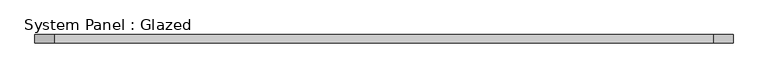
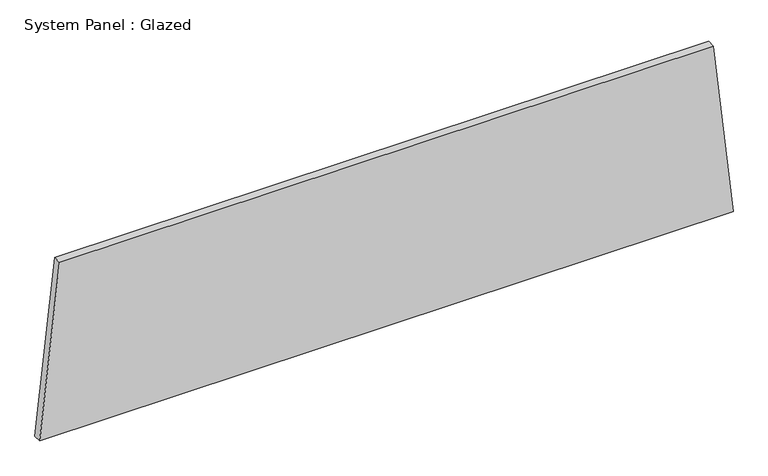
"""IFC4 building model written with IfcOpenShell, lengths in millimetres: plate geometry, System Panel : Glazed."""

from ifc_helpers import new_model, si_unit, frame, origin, place, context, project, spatial, polyline, outline, extrude, source, transform, mapped, element, save


def system_panel_glazed_a6d149b5(model_context):
    return source(origin(), model_context, "Body", "SweptSolid", [
        extrude(outline(polyline([(0.0, -1081.9360538), (0.0, 1081.9360538), (567.915181, 1020.0729586), (567.915181, -1020.0729586), (0.0, -1081.9360538)])), frame((0.0, -44.45, 0.0), z_axis=(0.0, 1.0, 0.0), x_axis=(0.0, 0.0, 1.0)), (0.0, 0.0, 1.0), 25.4),
    ])


if __name__ == "__main__":
    model = new_model("IFC4")
    model_context = context("Model", 3, world=origin())
    ifc_project = project(units=[si_unit("LENGTHUNIT", "METRE", prefix="MILLI")], contexts=[model_context])
    site = spatial("IfcSite", under=ifc_project)
    building = spatial("IfcBuilding", under=site)
    placement = place(None, origin())
    system_panel_glazed_shape = system_panel_glazed_a6d149b5(model_context)
    element("IfcPlate", 1, ObjectType="System Panel : Glazed", at=placement, inside=building, context=model_context, shape_type="MappedRepresentation", body=[
        mapped(system_panel_glazed_shape, transform((0.0, 0.0, 0.0), x_axis=(1.0, 0.0, 0.0), y_axis=(0.0, 1.0, 0.0), z_axis=(0.0, 0.0, 1.0))),
    ])
    save(model, "model.ifc")
